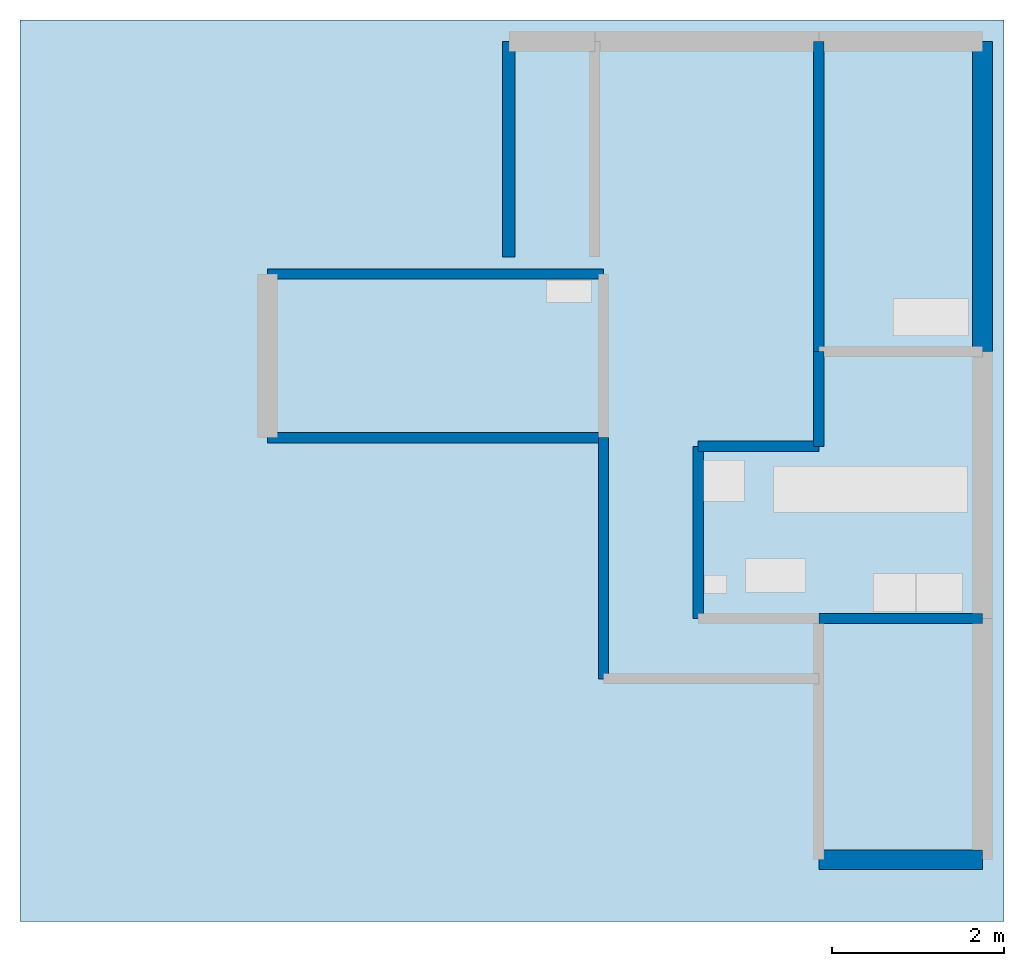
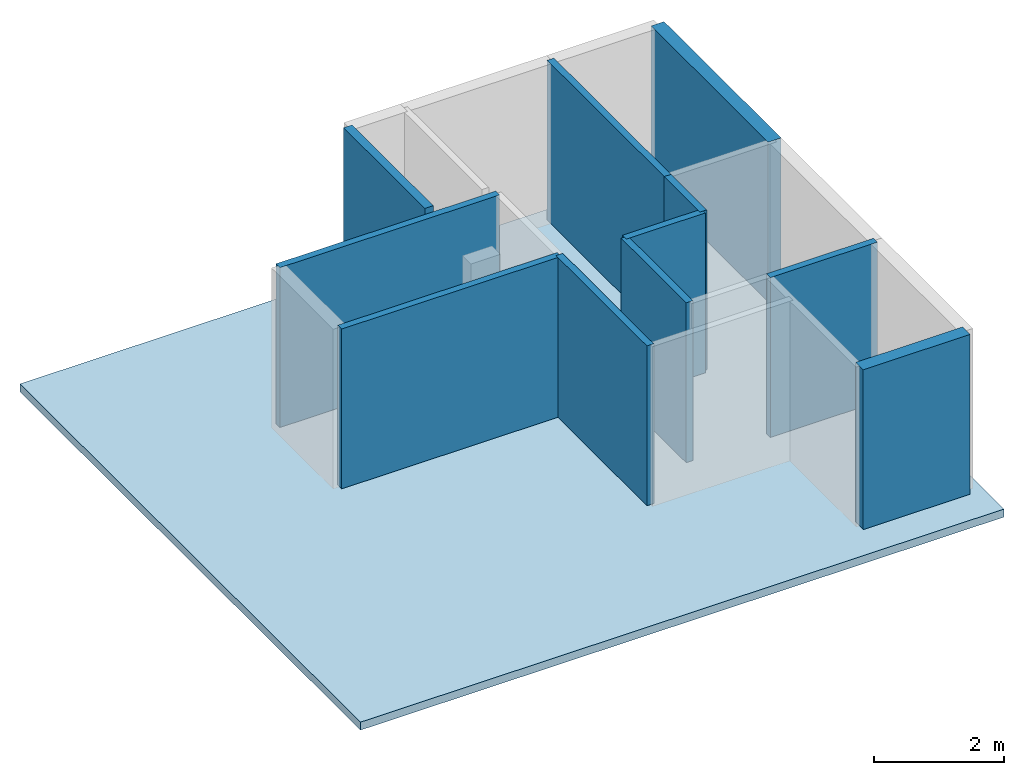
# One storey, part 1 of 3: 11 walls, 1 slab.
"""IFC4 building model written with IfcOpenShell, lengths in metres."""

from ifc_helpers import new_model, si_unit, frame, origin, place, context, project, spatial, polyline, outline, extrude, material, element, save


model = new_model("IFC4")

# Units and contexts
model_context = context("Model", 3, precision=1e-05, world=origin())
ifc_project = project(units=[si_unit("LENGTHUNIT", "METRE")], contexts=[model_context])

# Site, building, storey
site_placement = place(None, origin())
site = spatial("IfcSite", under=ifc_project, at=site_placement, Name="Site")
building_placement = place(site_placement, origin())
building = spatial("IfcBuilding", under=site, at=building_placement, Name="Structure")
storey_placement = place(building_placement, origin())
storey = spatial("IfcBuildingStorey", under=building, at=storey_placement, Name="Ground Floor")

# Slab
ifc_material = material(Name="RCC")
slab_placement = place(storey_placement, frame((0.0, 0.0, -0.15)))
element("IfcSlab", 1, at=slab_placement, inside=storey, material=ifc_material, Name="slab_ground", PredefinedType="FLOOR", context=model_context, shape_type="SweptSolid", body=[
    extrude(outline(polyline([(-1.375, -0.52), (10.05, -0.52), (10.05, 9.95), (-1.375, 9.95), (-1.375, -0.52)])), origin(), (0.0, 0.0, 1.0), 0.15),
])

# Walls
wall_1_placement = place(storey_placement, frame((9.8, 6.1, 0.0), x_axis=(6.12323399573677e-17, 1.0, 0.0)))
element("IfcWallStandardCase", 2, at=wall_1_placement, inside=storey, Name="wall_ext_right_top", context=model_context, shape_type="SweptSolid", body=[
    extrude(outline(polyline([(0.0, -0.115), (3.6, -0.115), (3.6, 0.115), (0.0, 0.115), (0.0, -0.115)])), origin(), (0.0, 0.0, 1.0), 3.0),
])
wall_2_placement = place(storey_placement, frame((7.9, 0.2, 0.0), x_axis=(1.0, 0.0, 0.0)))
element("IfcWallStandardCase", 3, at=wall_2_placement, inside=storey, Name="wall_ext_bot_right", context=model_context, shape_type="SweptSolid", body=[
    extrude(outline(polyline([(0.0, -0.115), (1.9, -0.115), (1.9, 0.115), (0.0, 0.115), (0.0, -0.115)])), origin(), (0.0, 0.0, 1.0), 3.0),
])
wall_3_placement = place(storey_placement, frame((7.9, 6.1, 0.0), x_axis=(6.12323399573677e-17, 1.0, 0.0)))
element("IfcWallStandardCase", 4, at=wall_3_placement, inside=storey, Name="wall_int_living_bed_tr", context=model_context, shape_type="SweptSolid", body=[
    extrude(outline(polyline([(0.0, -0.06), (3.6, -0.06), (3.6, 0.06), (0.0, 0.06), (0.0, -0.06)])), origin(), (0.0, 0.0, 1.0), 3.0),
])
wall_4_placement = place(storey_placement, frame((7.9, 5.0, 0.0), x_axis=(6.12323399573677e-17, 1.0, 0.0)))
element("IfcWallStandardCase", 5, at=wall_4_placement, inside=storey, Name="wall_int_living_kitchen", context=model_context, shape_type="SweptSolid", body=[
    extrude(outline(polyline([(0.0, -0.06), (1.1, -0.06), (1.1, 0.06), (0.0, 0.06), (0.0, -0.06)])), origin(), (0.0, 0.0, 1.0), 3.0),
])
wall_5_placement = place(storey_placement, frame((6.5, 5.0, 0.0), x_axis=(1.0, 0.0, 0.0)))
element("IfcWallStandardCase", 6, at=wall_5_placement, inside=storey, Name="wall_int_bath_top", context=model_context, shape_type="SweptSolid", body=[
    extrude(outline(polyline([(0.0, -0.06), (1.4, -0.06), (1.4, 0.06), (0.0, 0.06), (0.0, -0.06)])), origin(), (0.0, 0.0, 1.0), 3.0),
])
wall_6_placement = place(storey_placement, frame((6.5, 3.0, 0.0), x_axis=(6.12323399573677e-17, 1.0, 0.0)))
element("IfcWallStandardCase", 7, at=wall_6_placement, inside=storey, Name="wall_int_bath_left", context=model_context, shape_type="SweptSolid", body=[
    extrude(outline(polyline([(0.0, -0.06), (2.0, -0.06), (2.0, 0.06), (0.0, 0.06), (0.0, -0.06)])), origin(), (0.0, 0.0, 1.0), 3.0),
])
wall_7_placement = place(storey_placement, frame((7.9, 3.0, 0.0), x_axis=(1.0, 0.0, 0.0)))
element("IfcWallStandardCase", 8, at=wall_7_placement, inside=storey, Name="wall_int_kitchen_bot", context=model_context, shape_type="SweptSolid", body=[
    extrude(outline(polyline([(0.0, -0.06), (1.9, -0.06), (1.9, 0.06), (0.0, 0.06), (0.0, -0.06)])), origin(), (0.0, 0.0, 1.0), 3.0),
])
wall_8_placement = place(storey_placement, frame((5.4, 2.3, 0.0), x_axis=(6.12323399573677e-17, 1.0, 0.0)))
element("IfcWallStandardCase", 9, at=wall_8_placement, inside=storey, Name="wall_int_corridor_left", context=model_context, shape_type="SweptSolid", body=[
    extrude(outline(polyline([(0.0, -0.06), (2.8, -0.06), (2.8, 0.06), (0.0, 0.06), (0.0, -0.06)])), origin(), (0.0, 0.0, 1.0), 3.0),
])
for number, where, x_axis, name in (
    (10, (1.5, 7.0, 0.0), (1.0, 0.0, 0.0), "wall_int_bed_ml_top"),
    (11, (1.5, 5.1, 0.0), (1.0, 0.0, 0.0), "wall_int_bed_ml_bot"),
):
    element("IfcWallStandardCase", number, at=place(storey_placement, frame(where, x_axis=x_axis)), inside=storey, Name=name, context=model_context, shape_type="SweptSolid", body=[
        extrude(outline(polyline([(0.0, -0.06), (3.9, -0.06), (3.9, 0.06), (0.0, 0.06), (0.0, -0.06)])), origin(), (0.0, 0.0, 1.0), 3.0),
    ])
wall_9_placement = place(storey_placement, frame((4.3, 7.2, 0.0), x_axis=(6.12323399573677e-17, 1.0, 0.0)))
element("IfcWallStandardCase", 12, at=wall_9_placement, inside=storey, Name="wall_ext_balc_tl_left", context=model_context, shape_type="SweptSolid", body=[
    extrude(outline(polyline([(0.0, -0.075), (2.5, -0.075), (2.5, 0.075), (0.0, 0.075), (0.0, -0.075)])), origin(), (0.0, 0.0, 1.0), 3.0),
])

save(model, "model.ifc")
